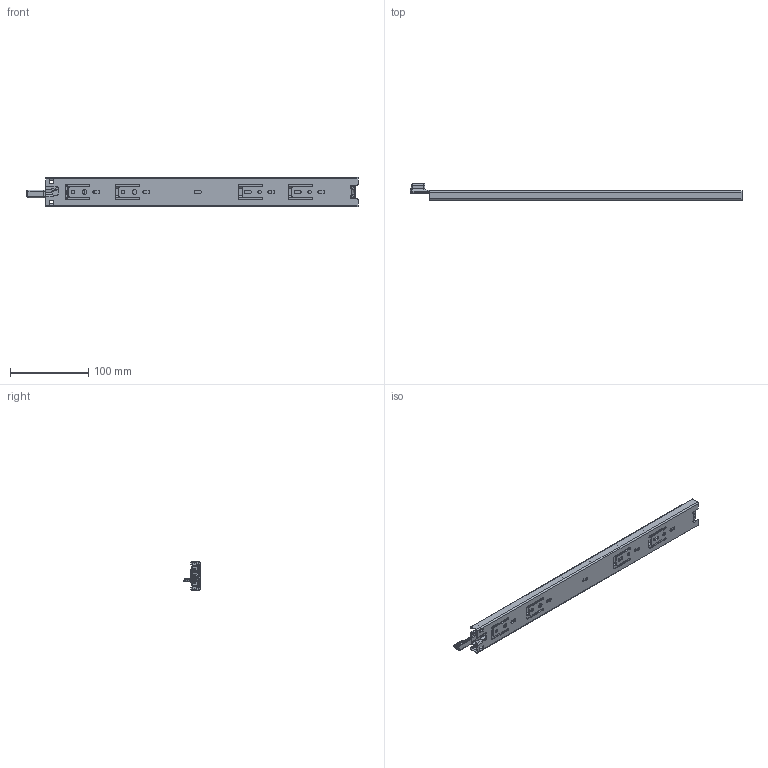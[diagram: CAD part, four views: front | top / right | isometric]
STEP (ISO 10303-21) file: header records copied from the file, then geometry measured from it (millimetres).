
FILE_DESCRIPTION((''),'2;1');
FILE_NAME('1037-BS-16ZUO_ASM','2023-05-08T',('jishu015'),(''),'PRO/ENGINEER BY PARAMETRIC TECHNOLOGY CORPORATION, 2010280','PRO/ENGINEER BY PARAMETRIC TECHNOLOGY CORPORATION, 2010280','');
FILE_SCHEMA(('CONFIG_CONTROL_DESIGN'));
Length unit declared in the file: millimetre
Products named in the file (18): KP-37-01WAIKE-20______; 1037WEIJIAO_______; WAIKE_____ASM; KP-37-01ZHONGGUI-20______; 1037ZIDIJIAO_______; ZHONGGUI_____ASM; 1045ZHUTIAO-219_____; 37-4-76GANZHU________; 45ZHUTIAO-219______ASM; KP-37-01NEIGUI-20______; 1037BACHA_______; 1037BANJI-ZUO-16; JINSUJIAO112____; XIN_____ASM; 37ZHUJIA-16GE_______; 4GANZHU_______; 37ZHUJIA-16GE________ASM; 1037-BS-16ZUO_ASM
Assembly tree (48 placements, depth 3):
  1037-BS-16ZUO_ASM
    WAIKE_____ASM
      KP-37-01WAIKE-20______
      1037WEIJIAO_______
    ZHONGGUI_____ASM
      KP-37-01ZHONGGUI-20______
      1037ZIDIJIAO_______
    45ZHUTIAO-219______ASM  x2
      1045ZHUTIAO-219_____
      37-4-76GANZHU________
    XIN_____ASM
      KP-37-01NEIGUI-20______
      1037BACHA_______
      1037BANJI-ZUO-16
      JINSUJIAO112____
    37ZHUJIA-16GE________ASM
      37ZHUJIA-16GE_______
      4GANZHU_______  x28
Bounding box: 425.04 x 20.7 x 37.2 mm (x, y, z)
Volume: 71060.5 mm3; surface area: 124463.7 mm2
Topology: 48 solids, 48 shells, 1338 faces, 3824 edges, 2366 vertices
Faces by surface type: plane 700, cylinder 511, sphere 77, bspline 37, torus 7, cone 6
Entity records: 42006 total; most frequent: CARTESIAN_POINT 9185, ORIENTED_EDGE 6878, DIRECTION 6859, EDGE_CURVE 3439, AXIS2_PLACEMENT_3D 2305, VECTOR 2249, LINE 2249, VERTEX_POINT 2186
